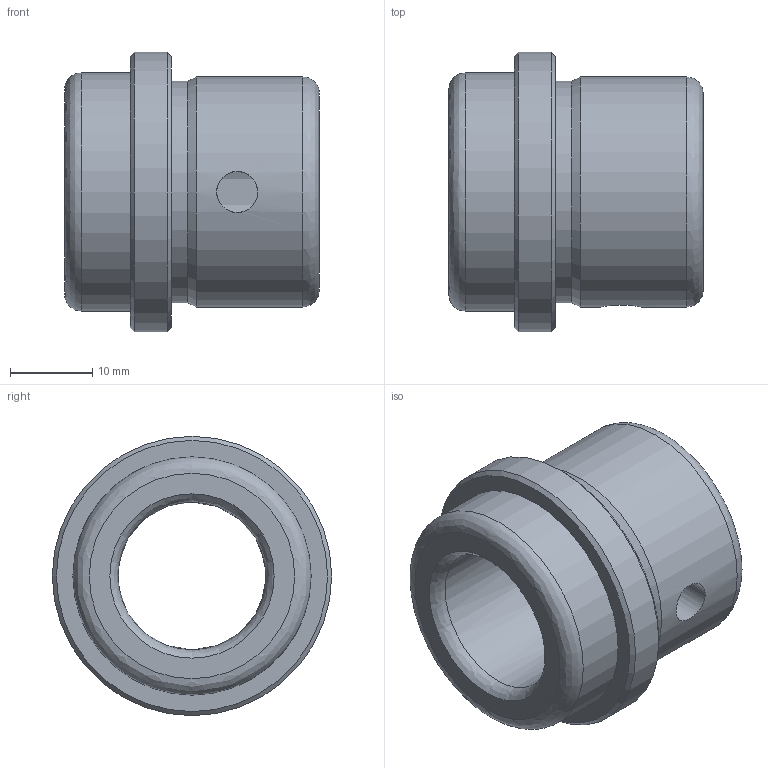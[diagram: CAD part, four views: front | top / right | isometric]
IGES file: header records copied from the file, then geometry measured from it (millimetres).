
Global section: file name: BEB18C.ipt; native system: Autodesk Inventor 2021; preprocessor: unknown; author: SM; date: 20220119.073239; units: millimetre
Bounding box: 31 x 34 x 34 mm (x, y, z)
Volume: 12577.7 mm3; surface area: 9558 mm2
Topology: 2 solids, 2 shells, 20 faces, 55 edges, 36 vertices
Faces by surface type: revolution 8, cylinder 5, plane 4, cone 3
Full cylindrical faces by diameter (mm): 20 x1, 27 x1, 28 x1, 29 x1, 34 x1
